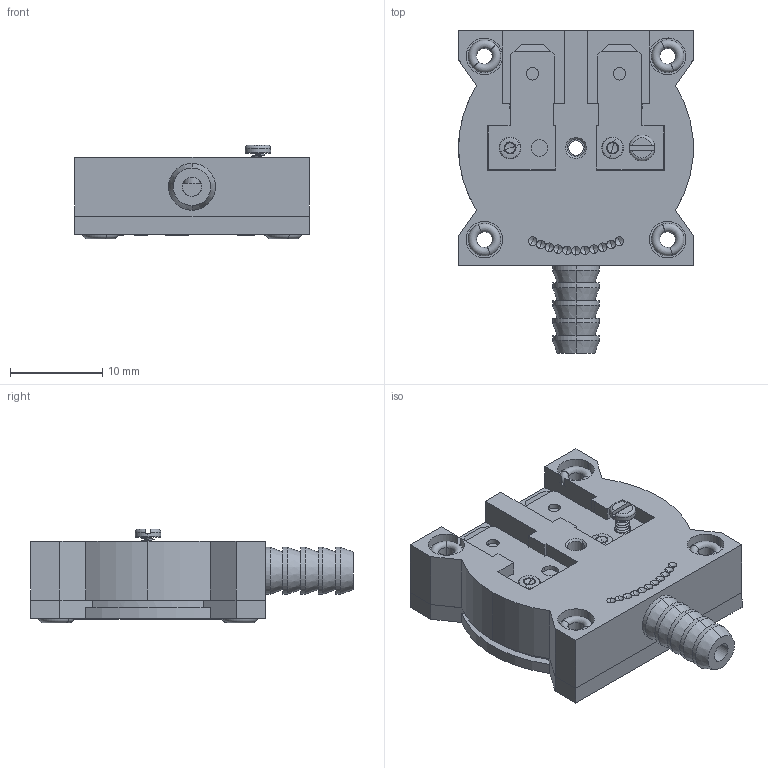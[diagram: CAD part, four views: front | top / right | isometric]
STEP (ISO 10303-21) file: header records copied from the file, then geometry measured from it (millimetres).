
FILE_DESCRIPTION (( 'STEP AP203' ), '1' );
FILE_NAME ('0500VO-GP-0001.STEP', '2016-02-19T14:15:41', ( '' ), ( '' ), 'SwSTEP 2.0', 'SolidWorks 2016', '' );
FILE_SCHEMA (( 'CONFIG_CONTROL_DESIGN' ));
Length unit declared in the file: inch
Products named in the file (1): 0500VO-GP-0001
Bounding box: 25.4 x 34.92 x 10.12 mm (x, y, z)
Surface area: 3317.6 mm2 (no closed solid volume)
Topology: 0 solids, 12 shells, 771 faces, 2331 edges, 1557 vertices
Faces by surface type: plane 449, bspline 193, cylinder 59, cone 38, torus 32
Entity records: 38299 total; most frequent: CARTESIAN_POINT 18754, ORIENTED_EDGE 4181, DIRECTION 3326, EDGE_CURVE 2305, VECTOR 1626, LINE 1626, VERTEX_POINT 1557, EDGE_LOOP 881
